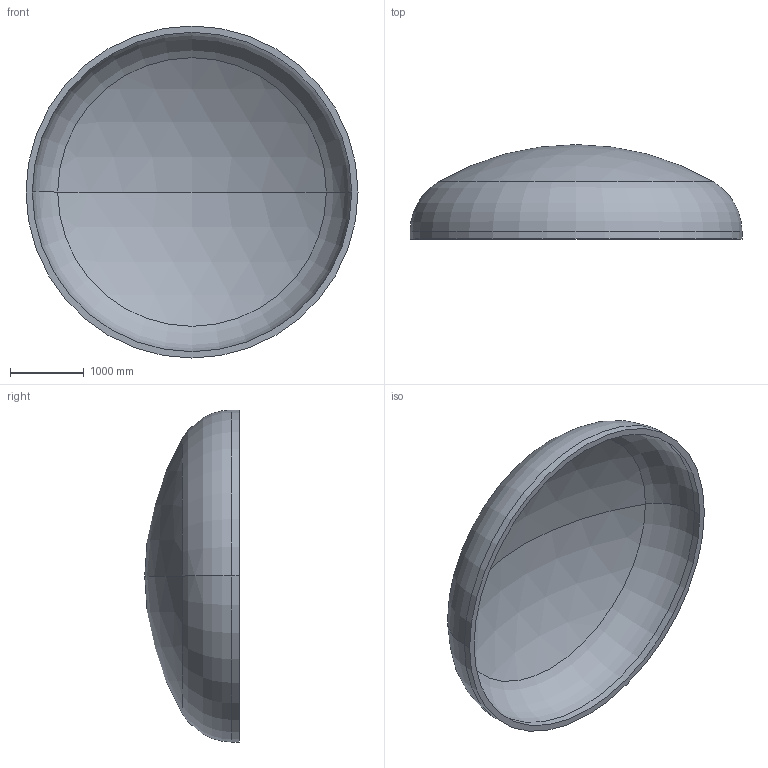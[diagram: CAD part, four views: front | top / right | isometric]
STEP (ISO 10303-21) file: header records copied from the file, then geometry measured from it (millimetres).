
FILE_DESCRIPTION (( 'STEP AP203' ), '1' );
FILE_NAME ('DIN 28013 Korbbogenform_-_Boden DIN 28013 - 4500 x 100 - I - s=86.step', '2016-07-01T23:45:51', ( '' ), ( '' ), 'SwSTEP 2.0', 'SolidWorks 2013', '' );
FILE_SCHEMA (( 'CONFIG_CONTROL_DESIGN' ));
Length unit declared in the file: millimetre
Products named in the file (1): DIN 28013 Korbbogenform_-_Boden DIN 28013 - 4500 x 100 - I - s=86
Bounding box: 4500 x 1279.79 x 4500 mm (x, y, z)
Volume: 1967561189.3 mm3; surface area: 46965271.8 mm2
Topology: 1 solids, 1 shells, 13 faces, 24 edges, 14 vertices
Faces by surface type: torus 4, cylinder 4, sphere 4, plane 1
Entity records: 407 total; most frequent: DIRECTION 72, CARTESIAN_POINT 52, ORIENTED_EDGE 48, AXIS2_PLACEMENT_3D 34, EDGE_CURVE 24, CIRCLE 20, EDGE_LOOP 14, VERTEX_POINT 14
